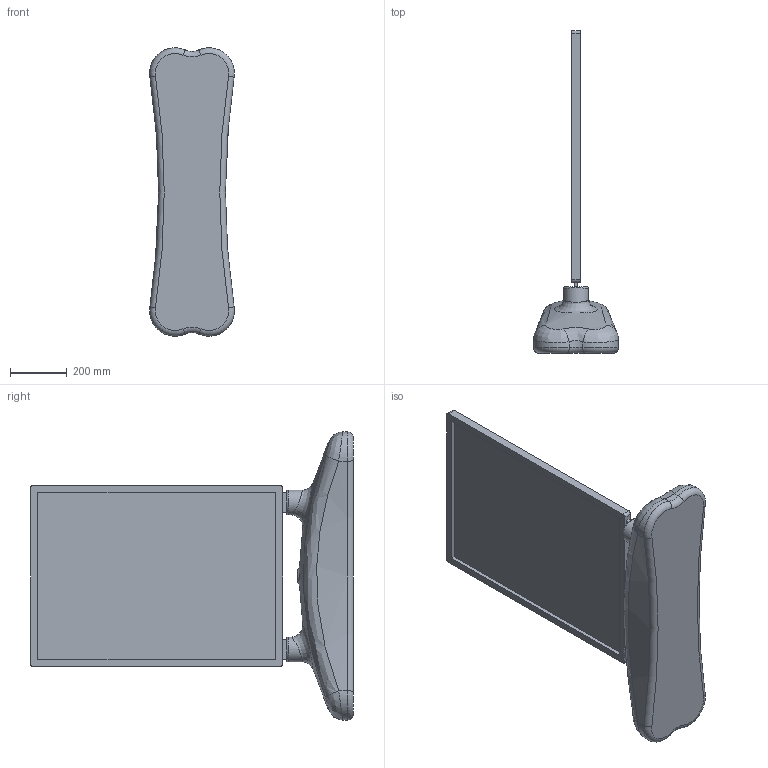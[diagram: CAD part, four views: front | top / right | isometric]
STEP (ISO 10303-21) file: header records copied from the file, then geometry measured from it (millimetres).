
FILE_DESCRIPTION(/* description */ (''),/* implementation_level */ '2;1');
FILE_NAME(/* name */ 'N:\0_Question Bank\Assignment\Inventor\Environment\Part4.stp',/* time_stamp */ '2023-10-13T10:29:27+01:00',/* author */ ('aphee'),/* organization */ (''),/* preprocessor_version */ 'ST-DEVELOPER v18.1',/* originating_system */ 'Autodesk Inventor 2022',/* authorisation */ '');
FILE_SCHEMA (('AUTOMOTIVE_DESIGN { 1 0 10303 214 3 1 1 }'));
Length unit declared in the file: millimetre
Products named in the file (1): Part4
Bounding box: 299.98 x 1141.25 x 1019.88 mm (x, y, z)
Volume: 42670492.6 mm3; surface area: 2135768.6 mm2
Topology: 1 solids, 1 shells, 66 faces, 156 edges, 99 vertices
Faces by surface type: plane 28, cylinder 16, torus 11, bspline 11
Full cylindrical faces by diameter (mm): 88.015 x2
Entity records: 3188 total; most frequent: CARTESIAN_POINT 1658, ORIENTED_EDGE 312, DIRECTION 294, EDGE_CURVE 156, AXIS2_PLACEMENT_3D 110, VERTEX_POINT 99, EDGE_LOOP 75, LINE 74
